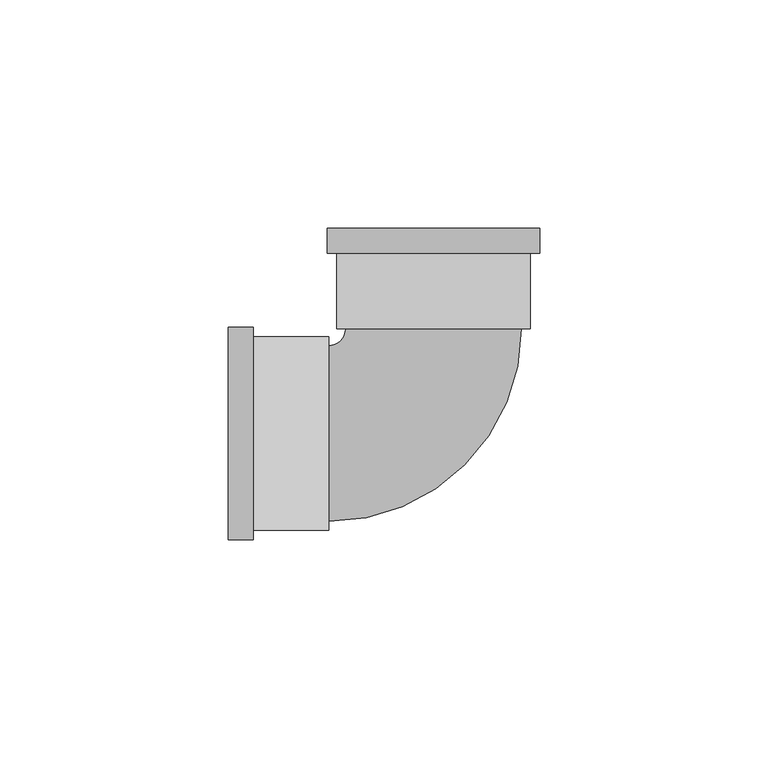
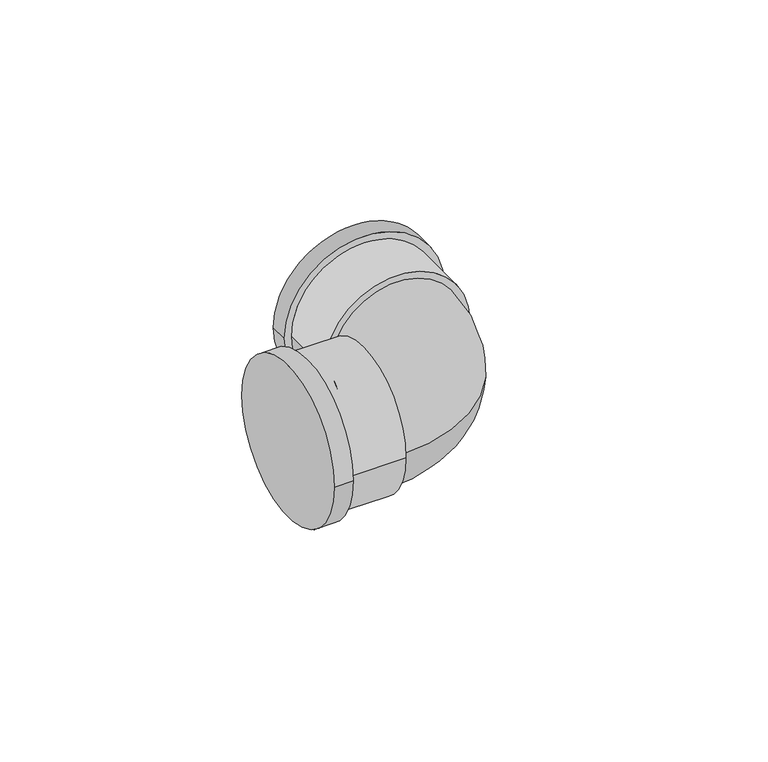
"""IFC4 building model written with IfcOpenShell, lengths in millimetres: pipe fitting geometry, Cotovelo - PVC - CW : Padrão."""

import ifcopenshell
import ifcopenshell.guid

model = None  # the IFC model being written
_history = None  # IfcOwnerHistory: only IFC2X3 demands one
_inside = {}  # id of a spatial element -> (the spatial element, [elements in it])
_under = {}  # id of a project, library or spatial element -> (it, [spatial elements below it])
_declared = {}  # id of a project -> (the project, [libraries it declares])
_typed = {}  # id of a type object -> (the type object, [elements of that type])
_made_of = {}  # id of a material, layer set ... -> (it, [elements and type objects made of it])


def new_model(schema):
    """Start an empty IFC model of exactly this schema.

    Asked for "IFC4X3", IfcOpenShell would pick the latest addendum, in which some entities
    have other attributes; the version numbers below select the first issue.
    IFC2X3 requires an IfcOwnerHistory on every rooted entity: one is made here for all.
    """
    global model, _history
    if schema == "IFC4X3":
        model = ifcopenshell.file(schema_version=(4, 3, 0, 0))
    else:
        model = ifcopenshell.file(schema=schema)
    _inside.clear()
    _under.clear()
    _declared.clear()
    _typed.clear()
    _made_of.clear()
    _history = None
    if model.schema == "IFC2X3":
        org = make("IfcOrganization", Name="unknown")
        user = make(
            "IfcPersonAndOrganization",
            ThePerson=make("IfcPerson", FamilyName="unknown"),
            TheOrganization=org,
        )
        app = make(
            "IfcApplication",
            ApplicationDeveloper=org,
            Version="unknown",
            ApplicationFullName="unknown",
            ApplicationIdentifier="unknown",
        )
        _history = make(
            "IfcOwnerHistory",
            OwningUser=user,
            OwningApplication=app,
            ChangeAction="ADDED",
            CreationDate=0,
        )
    return model


def make(cls, **values):
    """One entity of the class cls with the attributes given. An attribute that is None is left unset."""
    return model.create_entity(
        cls, **{name: value for name, value in values.items() if value is not None}
    )


def rooted(cls, **values):
    """An entity with a GlobalId (a new one), such as an element, a storey or a relation."""
    return make(cls, GlobalId=ifcopenshell.guid.new(), OwnerHistory=_history, **values)


def si_unit(unit_type, name, prefix=None):
    """IfcSIUnit, for example si_unit("LENGTHUNIT", "METRE", prefix="MILLI")."""
    return make("IfcSIUnit", UnitType=unit_type, Prefix=prefix, Name=name)


def assignment(units):
    """IfcUnitAssignment: the units of a project."""
    return None if units is None else make("IfcUnitAssignment", Units=units)


def point(xyz):
    """IfcCartesianPoint."""
    return None if xyz is None else make("IfcCartesianPoint", Coordinates=xyz)


def direction(xyz):
    """IfcDirection."""
    return None if xyz is None else make("IfcDirection", DirectionRatios=xyz)


def frame(location, z_axis=None, x_axis=None):
    """IfcAxis2Placement3D, a coordinate frame: its origin and axes. An axis left out is left unset."""
    return make(
        "IfcAxis2Placement3D",
        Location=point(location),
        Axis=direction(z_axis),
        RefDirection=direction(x_axis),
    )


def origin():
    """The frame at (0, 0, 0) with its axes left unset."""
    return frame((0.0, 0.0, 0.0))


def place(relative_to, where):
    """IfcLocalPlacement: puts the frame where relative to a parent placement (None: the world)."""
    return make(
        "IfcLocalPlacement", PlacementRelTo=relative_to, RelativePlacement=where
    )


def context(
    kind, dimensions, precision=None, world=None, true_north=None, identifier=None
):
    """IfcGeometricRepresentationContext, for example the 3D "Model" context."""
    return make(
        "IfcGeometricRepresentationContext",
        ContextIdentifier=identifier,
        ContextType=kind,
        CoordinateSpaceDimension=dimensions,
        Precision=precision,
        WorldCoordinateSystem=world,
        TrueNorth=true_north,
    )


def project(units=None, contexts=None):
    """IfcProject with its units and contexts."""
    return rooted(
        "IfcProject",
        Name="project",
        RepresentationContexts=contexts,
        UnitsInContext=assignment(units),
    )


def spatial(cls, under=None, at=None, **own):
    """A site, building, storey or space (cls), placed at a placement, below another one or the project."""
    s = rooted(cls, ObjectPlacement=at, **own)
    if under is not None:
        _under.setdefault(under.id(), (under, []))[1].append(s)
    return s


def circle_curve(where, radius):
    """IfcCircle in the frame where."""
    return make("IfcCircle", Position=where, Radius=radius)


def ellipse_curve(where, semi_axis1, semi_axis2):
    """IfcEllipse in the frame where."""
    return make(
        "IfcEllipse", Position=where, SemiAxis1=semi_axis1, SemiAxis2=semi_axis2
    )


def trimmed(basis, trim1, trim2, sense, master):
    """IfcTrimmedCurve: the piece of a basis curve between two trims."""
    return make(
        "IfcTrimmedCurve",
        BasisCurve=basis,
        Trim1=trim1,
        Trim2=trim2,
        SenseAgreement=sense,
        MasterRepresentation=master,
    )


def shape(context_of_items, identifier, shape_type, items):
    """IfcShapeRepresentation: the items that make up one representation, for example the "Body"."""
    return make(
        "IfcShapeRepresentation",
        ContextOfItems=context_of_items,
        RepresentationIdentifier=identifier,
        RepresentationType=shape_type,
        Items=items,
    )


def source(mapping_origin, context_of_items, identifier, shape_type, items):
    """IfcRepresentationMap: a shape defined once, which mapped items show again and again."""
    return make(
        "IfcRepresentationMap",
        MappingOrigin=mapping_origin,
        MappedRepresentation=shape(context_of_items, identifier, shape_type, items),
    )


def transform(
    local_origin,
    x_axis=None,
    y_axis=None,
    z_axis=None,
    scale=None,
    scale2=None,
    scale3=None,
    uniform=True,
):
    """IfcCartesianTransformationOperator3D, or its non-uniform kind. x_axis, y_axis, z_axis: its Axis1, 2, 3."""
    if uniform:
        return make(
            "IfcCartesianTransformationOperator3D",
            Axis1=direction(x_axis),
            Axis2=direction(y_axis),
            LocalOrigin=point(local_origin),
            Scale=scale,
            Axis3=direction(z_axis),
        )
    return make(
        "IfcCartesianTransformationOperator3DnonUniform",
        Axis1=direction(x_axis),
        Axis2=direction(y_axis),
        LocalOrigin=point(local_origin),
        Scale=scale,
        Axis3=direction(z_axis),
        Scale2=scale2,
        Scale3=scale3,
    )


def mapped(mapping_source, mapping_target):
    """IfcMappedItem: shows the shape of a source again, moved by a transform."""
    return make(
        "IfcMappedItem", MappingSource=mapping_source, MappingTarget=mapping_target
    )


def made_of(thing, what):
    """Note that an element or type object is made of a material, layer set ...; save() writes the relation."""
    if what is not None:
        _made_of.setdefault(what.id(), (what, []))[1].append(thing)
    return thing


def element(
    cls,
    number,
    at=None,
    inside=None,
    cuts=None,
    type_object=None,
    material=None,
    context=None,
    identifier="Body",
    shape_type=None,
    held_by="IfcProductDefinitionShape",
    body=None,
    shapes=None,
    **own,
):
    """One element of the class cls, such as IfcWall. Its Tag is "e" and its number.

    at: its placement. inside: the storey or other place that contains it. cuts: it is an
    opening in that element (IfcRelVoidsElement). A single representation is given by context,
    identifier, shape_type and body (its items); several are given by shapes. held_by: the class
    of the entity that holds the representations. save() writes the other relations.
    """
    e = rooted(cls, Tag="e%d" % number, ObjectPlacement=at, **own)
    if body is not None:
        shapes = [shape(context, identifier, shape_type, body)]
    if shapes is not None:
        e.Representation = make(held_by, Representations=shapes)
    if inside is not None:
        _inside.setdefault(inside.id(), (inside, []))[1].append(e)
    if cuts is not None:
        rooted(
            "IfcRelVoidsElement", RelatingBuildingElement=cuts, RelatedOpeningElement=e
        )
    if type_object is not None:
        _typed.setdefault(type_object.id(), (type_object, []))[1].append(e)
    return made_of(e, material)


def aggregate(whole, parts):
    """IfcRelAggregates: a whole, such as a stair, and the parts it consists of."""
    return rooted("IfcRelAggregates", RelatingObject=whole, RelatedObjects=parts)


def save(model, path):
    """Write the relations noted so far, then the file.

    IfcRelAggregates (storeys below a building ...), IfcRelContainedInSpatialStructure (elements
    in a storey), IfcRelDefinesByType, IfcRelAssociatesMaterial and IfcRelDeclares: one each for
    every whole, place, type object, material and project.
    """
    for whole, parts in _under.values():
        aggregate(whole, parts)
    for where, things in _inside.values():
        rooted(
            "IfcRelContainedInSpatialStructure",
            RelatedElements=things,
            RelatingStructure=where,
        )
    for kind, things in _typed.values():
        rooted("IfcRelDefinesByType", RelatedObjects=things, RelatingType=kind)
    for what, things in _made_of.values():
        rooted("IfcRelAssociatesMaterial", RelatedObjects=things, RelatingMaterial=what)
    for by, libraries in _declared.values():
        rooted("IfcRelDeclares", RelatingContext=by, RelatedDefinitions=libraries)
    model.write(path)


def plane_surface(at):
    """IfcPlane: the flat surface through the origin of the frame at, square to its z axis."""
    return make("IfcPlane", Position=at)


def cylinder_surface(at, radius):
    """IfcCylindricalSurface: all points at the distance radius from the z axis of the frame at."""
    return make("IfcCylindricalSurface", Position=at, Radius=radius)


def revolved_surface(curve, axis_point, axis_direction):
    """IfcSurfaceOfRevolution: the curve turned about the line through axis_point along axis_direction."""
    return make(
        "IfcSurfaceOfRevolution",
        SweptCurve=make("IfcArbitraryOpenProfileDef", ProfileType="CURVE", Curve=curve),
        AxisPosition=make("IfcAxis1Placement", Location=point(axis_point), Axis=direction(axis_direction)),
    )


def advanced_brep(points, edges, surfaces, faces):
    """IfcAdvancedBrep: a solid bounded by faces that lie on surfaces and meet in shared edges.

    An edge is (start, end): straight between two places in points (the first is 0);
    or (start, end, curve); or (start, end, curve, False) where it runs against its curve.
    A face is (place in surfaces, loops), or (place, loops, False) where it looks against
    its surface's normal. A loop lists edges by number (the first is 1), with a minus sign
    where the edge is run from its end to its start. The first loop is the outer one.
    """
    corners = [point(p) for p in points]
    vertices = [make("IfcVertexPoint", VertexGeometry=c) for c in corners]
    made = []
    for start, end, *more in edges:
        made.append(
            make(
                "IfcEdgeCurve",
                EdgeStart=vertices[start],
                EdgeEnd=vertices[end],
                EdgeGeometry=more[0] if more else make("IfcPolyline", Points=[corners[start], corners[end]]),
                SameSense=more[1] if len(more) > 1 else True,
            )
        )
    hull = []
    for where, loops, *sense in faces:
        bounds = []
        for j, loop in enumerate(loops):
            ring = [make("IfcOrientedEdge", EdgeElement=made[abs(k) - 1], Orientation=k > 0) for k in loop]
            bounds.append(
                make(
                    "IfcFaceOuterBound" if j == 0 else "IfcFaceBound",
                    Bound=make("IfcEdgeLoop", EdgeList=ring),
                    Orientation=True,
                )
            )
        hull.append(make("IfcAdvancedFace", Bounds=bounds, FaceSurface=surfaces[where], SameSense=sense[0] if sense else True))
    return make("IfcAdvancedBrep", Outer=make("IfcClosedShell", CfsFaces=hull))


def pipe_fitting_83e925b4(model_context):
    return source(origin(), model_context, "Body", "AdvancedBrep", [
        advanced_brep(
        [(-45.0005437, -23.2925, 0.0), (-45.0005437, 23.2925, 0.0), (-39.5005437, -23.2925, 0.0), (-39.5005437, 23.2925, 0.0), (-39.5005437, -21.175, 0.0), (-39.5005437, 21.175, 0.0), (-23.0005437, 21.175, 0.0), (-23.0005437, -21.175, 0.0), (-23.0005437, -19.25, 0.0), (-23.0005437, 19.25, 0.0), (-19.2505437, 23.0000886, 0.0), (19.2494563, 23.0009987, 0.0), (21.1744563, 23.0010443, 0.0), (-21.1755437, 23.0000431, 0.0), (-23.2935638, 44.9999931, 0.0), (23.2914362, 45.0010943, 0.0), (21.1740662, 39.5010442, 0.0), (-21.1759337, 39.5000431, 0.0), (-23.2934337, 39.4999931, 0.0), (23.2915662, 39.5010943, 0.0)],
        [
            (0, 1, circle_curve(frame((-45.0005437, 0.0, 0.0), z_axis=(-1.0, 0.0, 0.0), x_axis=(0.0, 1.0, 0.0)), 23.2925)),
            (1, 0, circle_curve(frame((-45.0005437, 0.0, 0.0), z_axis=(-1.0, 0.0, 0.0), x_axis=(0.0, 1.0, 0.0)), 23.2925)),
            (2, 3, circle_curve(frame((-39.5005437, 0.0, 0.0), z_axis=(1.0, 0.0, 0.0), x_axis=(0.0, 1.0, 0.0)), 23.2925)),
            (3, 2, circle_curve(frame((-39.5005437, 0.0, 0.0), z_axis=(1.0, 0.0, 0.0), x_axis=(0.0, 1.0, 0.0)), 23.2925)),
            (4, 5, circle_curve(frame((-39.5005437, 0.0, 0.0), z_axis=(-1.0, 0.0, 0.0), x_axis=(0.0, -1.0, 0.0)), 21.175)),
            (5, 4, circle_curve(frame((-39.5005437, 0.0, 0.0), z_axis=(-1.0, 0.0, 0.0), x_axis=(0.0, -1.0, 0.0)), 21.175)),
            (0, 2),
            (3, 1),
            (6, 7, circle_curve(frame((-23.0005437, 0.0, 0.0), z_axis=(1.0, 0.0, 0.0), x_axis=(0.0, -1.0, 0.0)), 21.175)),
            (7, 6, circle_curve(frame((-23.0005437, 0.0, 0.0), z_axis=(1.0, 0.0, 0.0), x_axis=(0.0, -1.0, 0.0)), 21.175)),
            (8, 9, circle_curve(frame((-23.0005437, 0.0, 0.0), z_axis=(-1.0, 0.0, 0.0), x_axis=(0.0, 1.0, 0.0)), 19.25)),
            (9, 8, circle_curve(frame((-23.0005437, 0.0, 0.0), z_axis=(-1.0, 0.0, 0.0), x_axis=(0.0, 1.0, 0.0)), 19.25)),
            (6, 5),
            (4, 7),
            (10, 9, circle_curve(frame((-23.0005437, 23.0, 0.0), z_axis=(0.0, 0.0, -1.0), x_axis=(0.0, -1.0, 0.0)), 3.75)),
            (8, 11, circle_curve(frame((-23.0005437, 23.0, 0.0), z_axis=(0.0, 0.0, 1.0), x_axis=(0.0, -1.0, 0.0)), 42.25)),
            (11, 10, circle_curve(frame((-0.0005437, 23.0005437, 0.0), z_axis=(2.3639036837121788e-05, -0.9999999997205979, 0.0), x_axis=(-0.9999999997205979, -2.3639036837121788e-05, 0.0)), 19.25)),
            (10, 11, circle_curve(frame((-0.0005437, 23.0005437, 0.0), z_axis=(2.3639036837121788e-05, -0.9999999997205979, 0.0), x_axis=(-0.9999999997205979, -2.3639036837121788e-05, 0.0)), 19.25)),
            (12, 13, circle_curve(frame((-0.0005437, 23.0005437, 0.0), z_axis=(2.3639037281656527e-05, -0.9999999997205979, 0.0), x_axis=(-0.9999999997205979, -2.3639037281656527e-05, 0.0)), 21.175)),
            (13, 12, circle_curve(frame((-0.0005437, 23.0005437, 0.0), z_axis=(2.3639037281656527e-05, -0.9999999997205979, 0.0), x_axis=(-0.9999999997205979, -2.3639037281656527e-05, 0.0)), 21.175)),
            (14, 15, circle_curve(frame((-0.0010638, 45.0005437, 0.0), z_axis=(-2.3639036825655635e-05, 0.9999999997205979, 0.0), x_axis=(0.9999999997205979, 2.3639036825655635e-05, 0.0)), 23.2925)),
            (15, 14, circle_curve(frame((-0.0010638, 45.0005437, 0.0), z_axis=(-2.3639036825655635e-05, 0.9999999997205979, 0.0), x_axis=(0.9999999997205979, 2.3639036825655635e-05, 0.0)), 23.2925)),
            (12, 16),
            (16, 17, circle_curve(frame((-0.0009338, 39.5005437, 0.0), z_axis=(2.3639037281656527e-05, -0.9999999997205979, 0.0), x_axis=(-0.9999999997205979, -2.3639037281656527e-05, 0.0)), 21.175)),
            (17, 13),
            (17, 16, circle_curve(frame((-0.0009338, 39.5005437, 0.0), z_axis=(2.3639037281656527e-05, -0.9999999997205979, 0.0), x_axis=(-0.9999999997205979, -2.3639037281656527e-05, 0.0)), 21.175)),
            (18, 19, circle_curve(frame((-0.0009338, 39.5005437, 0.0), z_axis=(2.3639036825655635e-05, -0.9999999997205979, 0.0), x_axis=(0.9999999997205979, 2.3639036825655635e-05, 0.0)), 23.2925)),
            (19, 18, circle_curve(frame((-0.0009338, 39.5005437, 0.0), z_axis=(2.3639036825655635e-05, -0.9999999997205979, 0.0), x_axis=(0.9999999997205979, 2.3639036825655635e-05, 0.0)), 23.2925)),
            (14, 18),
            (19, 15),
        ],
        [
            plane_surface(frame((-45.0005437, 0.0, 0.0), z_axis=(-1.0, 0.0, 0.0), x_axis=(0.0, 0.0, 1.0))),
            plane_surface(frame((-39.5005437, 0.0, 0.0), z_axis=(1.0, 0.0, 0.0), x_axis=(0.0, 0.0, 1.0))),
            cylinder_surface(frame((-45.0005437, 0.0, 0.0), z_axis=(-1.0, 0.0, 0.0), x_axis=(0.0, 1.0, 0.0)), 23.2925),
            plane_surface(frame((-23.0005437, 0.0, 0.0), z_axis=(1.0, 0.0, 0.0), x_axis=(0.0, 0.0, 1.0))),
            cylinder_surface(frame((-23.0005437, 0.0, 0.0), z_axis=(1.0, 0.0, 0.0), x_axis=(0.0, -1.0, 0.0)), 21.175),
            revolved_surface(trimmed(ellipse_curve(frame((-23.0005437, 0.0, 0.0), z_axis=(-1.0, 0.0, 0.0), x_axis=(0.0, 1.0, 0.0)), 19.25, 19.25), [point((-23.0005437, -19.25, 0.0))], [point((-23.0005437, 19.25, 0.0))], True, "CARTESIAN"), (-23.0005437, 23.0, 0.0), (0.0, 0.0, 1.0)),
            revolved_surface(trimmed(ellipse_curve(frame((-23.0005437, 0.0, 0.0), z_axis=(-1.0, 0.0, 0.0), x_axis=(0.0, 1.0, 0.0)), 19.25, 19.25), [point((-23.0005437, 19.25, 0.0))], [point((-23.0005437, -19.25, 0.0))], True, "CARTESIAN"), (-23.0005437, 23.0, 0.0), (0.0, 0.0, 1.0)),
            plane_surface(frame((-0.0005437, 23.0005437, 0.0), z_axis=(2.3639037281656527e-05, -0.9999999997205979, 0.0), x_axis=(0.0, 0.0, 1.0))),
            plane_surface(frame((-0.0010638, 45.0005437, 0.0), z_axis=(-2.3639037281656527e-05, 0.9999999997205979, 0.0), x_axis=(0.0, 0.0, 1.0))),
            cylinder_surface(frame((-0.0005437, 23.0005437, 0.0), z_axis=(2.3639037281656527e-05, -0.9999999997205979, 0.0), x_axis=(-0.9999999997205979, -2.3639037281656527e-05, 0.0)), 21.175),
            plane_surface(frame((-0.0009338, 39.5005437, 0.0), z_axis=(2.3639036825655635e-05, -0.9999999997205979, 0.0), x_axis=(0.0, 0.0, 1.0))),
            cylinder_surface(frame((-0.0010638, 45.0005437, 0.0), z_axis=(-2.3639036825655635e-05, 0.9999999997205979, 0.0), x_axis=(0.9999999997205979, 2.3639036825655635e-05, 0.0)), 23.2925),
        ],
        [
            (0, [[1, 2]]),
            (1, [[3, 4], [5, 6]]),
            (2, [[-1, 7, -4, 8]]),
            (2, [[-2, -8, -3, -7]]),
            (3, [[9, 10], [11, 12]]),
            (4, [[-9, 13, -5, 14]]),
            (4, [[-10, -14, -6, -13]]),
            (5, [[15, -11, 16, 17]]),
            (6, [[-15, 18, -16, -12]]),
            (7, [[19, 20], [-17, -18]]),
            (8, [[21, 22]]),
            (9, [[-19, 23, 24, 25]]),
            (9, [[-20, -25, 26, -23]]),
            (10, [[27, 28], [-24, -26]]),
            (11, [[-21, 29, -28, 30]]),
            (11, [[-22, -30, -27, -29]]),
        ],
    ),
    ])


if __name__ == "__main__":
    model = new_model("IFC4")
    model_context = context("Model", 3, world=origin())
    ifc_project = project(units=[si_unit("LENGTHUNIT", "METRE", prefix="MILLI")], contexts=[model_context])
    site = spatial("IfcSite", under=ifc_project)
    building = spatial("IfcBuilding", under=site)
    placement = place(None, origin())
    pipe_fitting_shape = pipe_fitting_83e925b4(model_context)
    element("IfcPipeFitting", 1, ObjectType="Cotovelo - PVC - CW : Padrão", at=placement, inside=building, context=model_context, shape_type="MappedRepresentation", body=[
        mapped(pipe_fitting_shape, transform((0.0, 0.0, 0.0), x_axis=(1.0, 0.0, 0.0), y_axis=(0.0, 1.0, 0.0), z_axis=(0.0, 0.0, 1.0))),
    ])
    save(model, "model.ifc")
